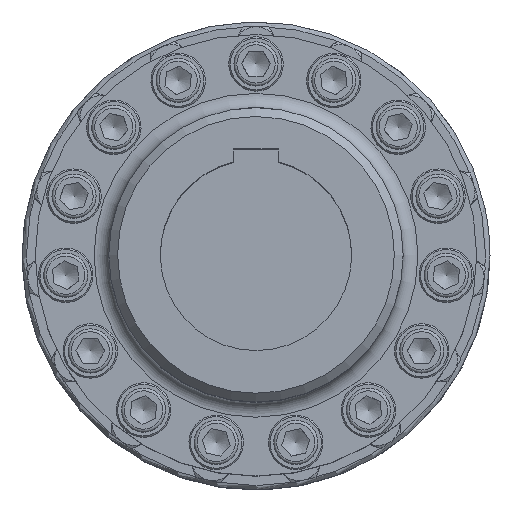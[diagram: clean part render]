
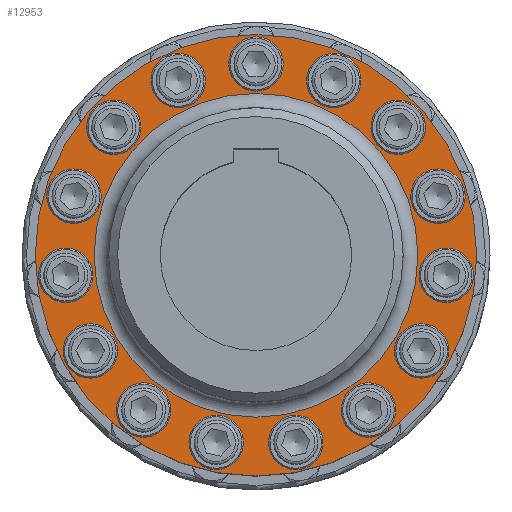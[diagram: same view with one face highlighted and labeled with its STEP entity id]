
A CAD part, top view. The second image highlights one B-rep face of the part: STEP entity #12953.
In plain terms, the highlighted planar face has unit normal (0, 0, 1).
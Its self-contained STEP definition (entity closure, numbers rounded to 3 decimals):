
#1915=PLANE('',#14190);
#2470=FACE_BOUND('',#4302,.T.);
#2471=FACE_BOUND('',#4303,.T.);
#2472=FACE_BOUND('',#4304,.T.);
#2473=FACE_BOUND('',#4305,.T.);
#2474=FACE_BOUND('',#4306,.T.);
#2475=FACE_BOUND('',#4307,.T.);
#2476=FACE_BOUND('',#4308,.T.);
#2477=FACE_BOUND('',#4309,.T.);
#2478=FACE_BOUND('',#4310,.T.);
#2479=FACE_BOUND('',#4311,.T.);
#2480=FACE_BOUND('',#4312,.T.);
#2481=FACE_BOUND('',#4313,.T.);
#2482=FACE_BOUND('',#4314,.T.);
#2483=FACE_BOUND('',#4315,.T.);
#2484=FACE_BOUND('',#4316,.T.);
#2485=FACE_BOUND('',#4317,.T.);
#3119=FACE_OUTER_BOUND('',#4301,.T.);
#4301=EDGE_LOOP('',(#9598));
#4302=EDGE_LOOP('',(#9599));
#4303=EDGE_LOOP('',(#9600));
#4304=EDGE_LOOP('',(#9601));
#4305=EDGE_LOOP('',(#9602));
#4306=EDGE_LOOP('',(#9603));
#4307=EDGE_LOOP('',(#9604));
#4308=EDGE_LOOP('',(#9605));
#4309=EDGE_LOOP('',(#9606));
#4310=EDGE_LOOP('',(#9607));
#4311=EDGE_LOOP('',(#9608));
#4312=EDGE_LOOP('',(#9609));
#4313=EDGE_LOOP('',(#9610));
#4314=EDGE_LOOP('',(#9611));
#4315=EDGE_LOOP('',(#9612));
#4316=EDGE_LOOP('',(#9613));
#4317=EDGE_LOOP('',(#9614));
#5177=CIRCLE('',#13736,18.5);
#5187=CIRCLE('',#13764,18.5);
#5197=CIRCLE('',#13792,18.5);
#5207=CIRCLE('',#13820,18.5);
#5217=CIRCLE('',#13848,18.5);
#5227=CIRCLE('',#13876,18.5);
#5237=CIRCLE('',#13904,18.5);
#5247=CIRCLE('',#13932,18.5);
#5257=CIRCLE('',#13960,18.5);
#5267=CIRCLE('',#13988,18.5);
#5277=CIRCLE('',#14016,18.5);
#5287=CIRCLE('',#14044,18.5);
#5297=CIRCLE('',#14072,18.5);
#5307=CIRCLE('',#14100,18.5);
#5321=CIRCLE('',#14146,18.5);
#5340=CIRCLE('',#14186,110.);
#5343=CIRCLE('',#14191,150.);
#5802=VERTEX_POINT('',#19026);
#5824=VERTEX_POINT('',#19106);
#5846=VERTEX_POINT('',#19186);
#5868=VERTEX_POINT('',#19266);
#5890=VERTEX_POINT('',#19346);
#5912=VERTEX_POINT('',#19426);
#5934=VERTEX_POINT('',#19506);
#5956=VERTEX_POINT('',#19586);
#5978=VERTEX_POINT('',#19666);
#6000=VERTEX_POINT('',#19746);
#6022=VERTEX_POINT('',#19826);
#6044=VERTEX_POINT('',#19906);
#6066=VERTEX_POINT('',#19986);
#6088=VERTEX_POINT('',#20066);
#6126=VERTEX_POINT('',#20210);
#6151=VERTEX_POINT('',#20285);
#6154=VERTEX_POINT('',#20293);
#6995=EDGE_CURVE('',#5802,#5802,#5177,.T.);
#7023=EDGE_CURVE('',#5824,#5824,#5187,.T.);
#7051=EDGE_CURVE('',#5846,#5846,#5197,.T.);
#7079=EDGE_CURVE('',#5868,#5868,#5207,.T.);
#7107=EDGE_CURVE('',#5890,#5890,#5217,.T.);
#7135=EDGE_CURVE('',#5912,#5912,#5227,.T.);
#7163=EDGE_CURVE('',#5934,#5934,#5237,.T.);
#7191=EDGE_CURVE('',#5956,#5956,#5247,.T.);
#7219=EDGE_CURVE('',#5978,#5978,#5257,.T.);
#7247=EDGE_CURVE('',#6000,#6000,#5267,.T.);
#7275=EDGE_CURVE('',#6022,#6022,#5277,.T.);
#7303=EDGE_CURVE('',#6044,#6044,#5287,.T.);
#7331=EDGE_CURVE('',#6066,#6066,#5297,.T.);
#7359=EDGE_CURVE('',#6088,#6088,#5307,.T.);
#7409=EDGE_CURVE('',#6126,#6126,#5321,.T.);
#7438=EDGE_CURVE('',#6151,#6151,#5340,.T.);
#7441=EDGE_CURVE('',#6154,#6154,#5343,.T.);
#9598=ORIENTED_EDGE('',*,*,#7441,.T.);
#9599=ORIENTED_EDGE('',*,*,#6995,.T.);
#9600=ORIENTED_EDGE('',*,*,#7023,.T.);
#9601=ORIENTED_EDGE('',*,*,#7051,.T.);
#9602=ORIENTED_EDGE('',*,*,#7079,.T.);
#9603=ORIENTED_EDGE('',*,*,#7107,.T.);
#9604=ORIENTED_EDGE('',*,*,#7135,.T.);
#9605=ORIENTED_EDGE('',*,*,#7163,.T.);
#9606=ORIENTED_EDGE('',*,*,#7191,.T.);
#9607=ORIENTED_EDGE('',*,*,#7219,.T.);
#9608=ORIENTED_EDGE('',*,*,#7247,.T.);
#9609=ORIENTED_EDGE('',*,*,#7275,.T.);
#9610=ORIENTED_EDGE('',*,*,#7303,.T.);
#9611=ORIENTED_EDGE('',*,*,#7331,.T.);
#9612=ORIENTED_EDGE('',*,*,#7359,.T.);
#9613=ORIENTED_EDGE('',*,*,#7409,.T.);
#9614=ORIENTED_EDGE('',*,*,#7438,.F.);
#12953=ADVANCED_FACE('',(#3119,#2470,#2471,#2472,#2473,#2474,#2475,#2476,
#2477,#2478,#2479,#2480,#2481,#2482,#2483,#2484,#2485),#1915,.T.);
#13736=AXIS2_PLACEMENT_3D('',#19027,#15546,#15547);
#13764=AXIS2_PLACEMENT_3D('',#19107,#15614,#15615);
#13792=AXIS2_PLACEMENT_3D('',#19187,#15682,#15683);
#13820=AXIS2_PLACEMENT_3D('',#19267,#15750,#15751);
#13848=AXIS2_PLACEMENT_3D('',#19347,#15818,#15819);
#13876=AXIS2_PLACEMENT_3D('',#19427,#15886,#15887);
#13904=AXIS2_PLACEMENT_3D('',#19507,#15954,#15955);
#13932=AXIS2_PLACEMENT_3D('',#19587,#16022,#16023);
#13960=AXIS2_PLACEMENT_3D('',#19667,#16090,#16091);
#13988=AXIS2_PLACEMENT_3D('',#19747,#16158,#16159);
#14016=AXIS2_PLACEMENT_3D('',#19827,#16226,#16227);
#14044=AXIS2_PLACEMENT_3D('',#19907,#16294,#16295);
#14072=AXIS2_PLACEMENT_3D('',#19987,#16362,#16363);
#14100=AXIS2_PLACEMENT_3D('',#20067,#16430,#16431);
#14146=AXIS2_PLACEMENT_3D('',#20211,#16546,#16547);
#14186=AXIS2_PLACEMENT_3D('',#20286,#16636,#16637);
#14190=AXIS2_PLACEMENT_3D('',#20292,#16644,#16645);
#14191=AXIS2_PLACEMENT_3D('',#20294,#16646,#16647);
#15546=DIRECTION('center_axis',(0.,0.,
-1.));
#15547=DIRECTION('ref_axis',(-0.407,-0.914,0.));
#15614=DIRECTION('center_axis',(0.,0.,
-1.));
#15615=DIRECTION('ref_axis',(-0.743,-0.669,0.));
#15682=DIRECTION('center_axis',(0.,0.,
-1.));
#15683=DIRECTION('ref_axis',(-0.951,-0.309,0.));
#15750=DIRECTION('center_axis',(0.,0.,
-1.));
#15751=DIRECTION('ref_axis',(-0.995,0.105,0.));
#15818=DIRECTION('center_axis',(0.,0.,
-1.));
#15819=DIRECTION('ref_axis',(-0.866,0.5,0.));
#15886=DIRECTION('center_axis',(0.,0.,
-1.));
#15887=DIRECTION('ref_axis',(-0.588,0.809,0.));
#15954=DIRECTION('center_axis',(0.,0.,
-1.));
#15955=DIRECTION('ref_axis',(-0.208,0.978,0.));
#16022=DIRECTION('center_axis',(0.,0.,
-1.));
#16023=DIRECTION('ref_axis',(0.208,0.978,0.));
#16090=DIRECTION('center_axis',(0.,0.,
-1.));
#16091=DIRECTION('ref_axis',(0.588,0.809,0.));
#16158=DIRECTION('center_axis',(0.,0.,
-1.));
#16159=DIRECTION('ref_axis',(0.866,0.5,0.));
#16226=DIRECTION('center_axis',(0.,0.,
-1.));
#16227=DIRECTION('ref_axis',(0.995,0.105,0.));
#16294=DIRECTION('center_axis',(0.,0.,
-1.));
#16295=DIRECTION('ref_axis',(0.951,-0.309,0.));
#16362=DIRECTION('center_axis',(0.,0.,
-1.));
#16363=DIRECTION('ref_axis',(0.743,-0.669,0.));
#16430=DIRECTION('center_axis',(0.,0.,
-1.));
#16431=DIRECTION('ref_axis',(0.407,-0.914,0.));
#16546=DIRECTION('center_axis',(0.,0.,
-1.));
#16547=DIRECTION('ref_axis',(0.,-1.,0.));
#16636=DIRECTION('center_axis',(0.,0.,
1.));
#16637=DIRECTION('ref_axis',(-1.,0.,0.));
#16644=DIRECTION('center_axis',(0.,0.,
1.));
#16645=DIRECTION('ref_axis',(0.,-1.,0.));
#16646=DIRECTION('center_axis',(0.,0.,
1.));
#16647=DIRECTION('ref_axis',(1.,0.,0.));
#19026=CARTESIAN_POINT('',(60.4,135.662,210.));
#19027=CARTESIAN_POINT('Origin',(52.876,118.761,210.));
#19106=CARTESIAN_POINT('',(110.357,99.366,210.));
#19107=CARTESIAN_POINT('Origin',(96.609,86.987,210.));
#19186=CARTESIAN_POINT('',(141.232,45.889,210.));
#19187=CARTESIAN_POINT('Origin',(123.637,40.172,210.));
#19266=CARTESIAN_POINT('',(147.687,-15.522,210.));
#19267=CARTESIAN_POINT('Origin',(129.288,-13.589,210.));
#19346=CARTESIAN_POINT('',(128.605,-74.25,210.));
#19347=CARTESIAN_POINT('Origin',(112.583,-65.,210.));
#19426=CARTESIAN_POINT('',(87.286,-120.139,210.));
#19427=CARTESIAN_POINT('Origin',(76.412,-105.172,210.));
#19506=CARTESIAN_POINT('',(30.875,-145.255,210.));
#19507=CARTESIAN_POINT('Origin',(27.029,-127.159,210.));
#19586=CARTESIAN_POINT('',(-30.875,-145.255,210.));
#19587=CARTESIAN_POINT('Origin',(-27.029,-127.159,210.));
#19666=CARTESIAN_POINT('',(-87.286,-120.139,210.));
#19667=CARTESIAN_POINT('Origin',(-76.412,-105.172,210.));
#19746=CARTESIAN_POINT('',(-128.605,-74.25,210.));
#19747=CARTESIAN_POINT('Origin',(-112.583,-65.,210.));
#19826=CARTESIAN_POINT('',(-147.687,-15.522,210.));
#19827=CARTESIAN_POINT('Origin',(-129.288,-13.589,210.));
#19906=CARTESIAN_POINT('',(-141.232,45.889,210.));
#19907=CARTESIAN_POINT('Origin',(-123.637,40.172,210.));
#19986=CARTESIAN_POINT('',(-110.357,99.366,210.));
#19987=CARTESIAN_POINT('Origin',(-96.609,86.987,210.));
#20066=CARTESIAN_POINT('',(-60.4,135.662,210.));
#20067=CARTESIAN_POINT('Origin',(-52.876,118.761,210.));
#20210=CARTESIAN_POINT('',(0.,148.5,210.));
#20211=CARTESIAN_POINT('Origin',(0.,130.,210.));
#20285=CARTESIAN_POINT('',(110.,0.,210.));
#20286=CARTESIAN_POINT('Origin',(0.,0.,
210.));
#20292=CARTESIAN_POINT('Origin',(125.,0.,210.));
#20293=CARTESIAN_POINT('',(150.,0.,210.));
#20294=CARTESIAN_POINT('Origin',(0.,0.,
210.));
